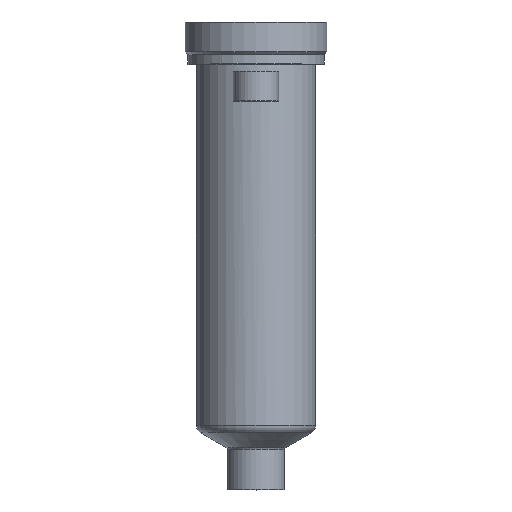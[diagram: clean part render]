
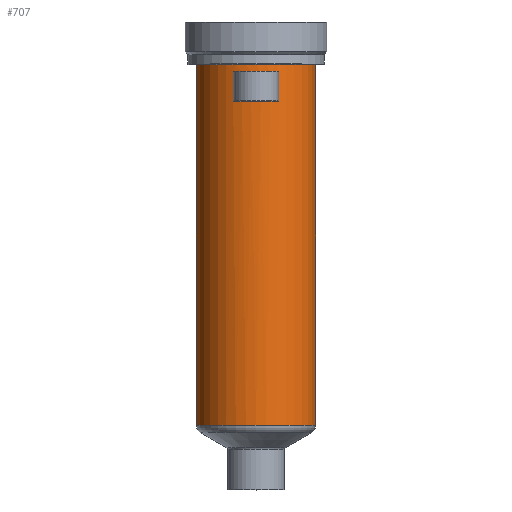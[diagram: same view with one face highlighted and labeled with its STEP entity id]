
A CAD part, top view. The second image highlights one B-rep face of the part: STEP entity #707.
In plain terms, the highlighted cylindrical face has radius 21 mm (diameter 42 mm), a partial arc.
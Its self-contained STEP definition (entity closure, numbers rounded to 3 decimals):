
#199=DIRECTION('',(0.,-1.,0.));
#200=VECTOR('',#199,127.228);
#201=CARTESIAN_POINT('',(21.,0.,0.));
#202=LINE('',#201,#200);
#203=CARTESIAN_POINT('',(0.,-127.228,0.));
#204=DIRECTION('',(0.,1.,0.));
#205=DIRECTION('',(-1.,0.,0.));
#206=AXIS2_PLACEMENT_3D('',#203,#204,#205);
#208=DIRECTION('',(0.,1.,0.));
#209=VECTOR('',#208,127.228);
#210=CARTESIAN_POINT('',(-21.,-127.228,0.));
#211=LINE('',#210,#209);
#212=CARTESIAN_POINT('',(0.,0.,0.));
#213=DIRECTION('',(0.,1.,0.));
#214=DIRECTION('',(-1.,0.,0.));
#215=AXIS2_PLACEMENT_3D('',#212,#213,#214);
#293=DIRECTION('',(0.,-1.,0.));
#294=VECTOR('',#293,10.5);
#295=CARTESIAN_POINT('',(-8.,-2.5,19.416));
#296=LINE('',#295,#294);
#297=CARTESIAN_POINT('',(0.,-13.,0.));
#298=DIRECTION('',(0.,1.,0.));
#299=DIRECTION('',(-0.381,0.,0.925));
#300=AXIS2_PLACEMENT_3D('',#297,#298,#299);
#323=CARTESIAN_POINT('',(0.,-2.5,0.));
#324=DIRECTION('',(0.,-1.,0.));
#325=DIRECTION('',(0.381,0.,0.925));
#326=AXIS2_PLACEMENT_3D('',#323,#324,#325);
#341=DIRECTION('',(0.,-1.,0.));
#342=VECTOR('',#341,10.5);
#343=CARTESIAN_POINT('',(8.,-2.5,19.416));
#344=LINE('',#343,#342);
#402=CARTESIAN_POINT('',(-21.,0.,0.));
#403=CARTESIAN_POINT('',(21.,0.,0.));
#404=VERTEX_POINT('',#402);
#405=VERTEX_POINT('',#403);
#414=CARTESIAN_POINT('',(-8.,-2.5,19.416));
#415=VERTEX_POINT('',#414);
#416=CARTESIAN_POINT('',(8.,-2.5,19.416));
#417=VERTEX_POINT('',#416);
#454=CARTESIAN_POINT('',(21.,-127.228,0.));
#455=VERTEX_POINT('',#454);
#464=CARTESIAN_POINT('',(-21.,-127.228,0.));
#465=VERTEX_POINT('',#464);
#466=CARTESIAN_POINT('',(-8.,-13.,19.416));
#467=CARTESIAN_POINT('',(8.,-13.,19.416));
#468=VERTEX_POINT('',#466);
#469=VERTEX_POINT('',#467);
#685=CARTESIAN_POINT('',(0.,16.4,0.));
#686=DIRECTION('',(0.,-1.,0.));
#687=DIRECTION('',(-1.,0.,0.));
#688=AXIS2_PLACEMENT_3D('',#685,#686,#687);
#689=CYLINDRICAL_SURFACE('',#688,21.);
#690=ORIENTED_EDGE('',*,*,#679,.T.);
#692=ORIENTED_EDGE('',*,*,#691,.F.);
#693=ORIENTED_EDGE('',*,*,#675,.T.);
#694=ORIENTED_EDGE('',*,*,#665,.T.);
#695=EDGE_LOOP('',(#690,#692,#693,#694));
#696=FACE_OUTER_BOUND('',#695,.F.);
#698=ORIENTED_EDGE('',*,*,#697,.T.);
#700=ORIENTED_EDGE('',*,*,#699,.T.);
#702=ORIENTED_EDGE('',*,*,#701,.F.);
#704=ORIENTED_EDGE('',*,*,#703,.T.);
#705=EDGE_LOOP('',(#698,#700,#702,#704));
#706=FACE_BOUND('',#705,.F.);
#707=ADVANCED_FACE('',(#696,#706),#689,.T.);
#207=CIRCLE('',#206,21.);
#216=CIRCLE('',#215,21.);
#301=CIRCLE('',#300,21.);
#327=CIRCLE('',#326,21.);
#665=EDGE_CURVE('',#404,#405,#216,.T.);
#675=EDGE_CURVE('',#465,#404,#211,.T.);
#679=EDGE_CURVE('',#405,#455,#202,.T.);
#691=EDGE_CURVE('',#465,#455,#207,.T.);
#697=EDGE_CURVE('',#415,#468,#296,.T.);
#699=EDGE_CURVE('',#468,#469,#301,.T.);
#701=EDGE_CURVE('',#417,#469,#344,.T.);
#703=EDGE_CURVE('',#417,#415,#327,.T.);
